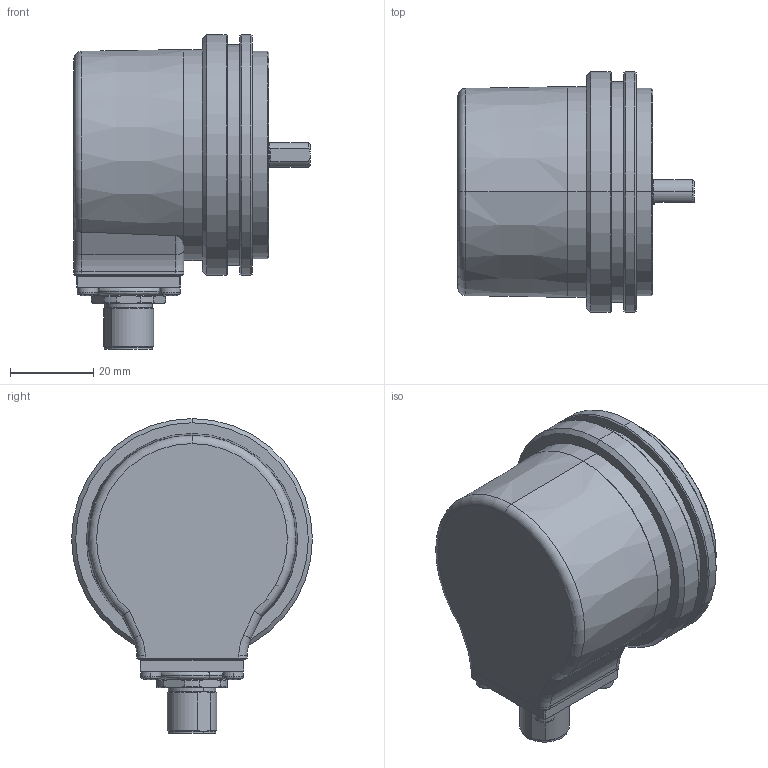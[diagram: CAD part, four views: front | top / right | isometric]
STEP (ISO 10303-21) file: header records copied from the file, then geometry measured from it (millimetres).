
FILE_DESCRIPTION (( 'STEP AP203' ), '1' );
FILE_NAME ('8.5000.A17R.XXXX.STEP', '2017-04-05T06:52:26', ( '' ), ( '' ), 'SwSTEP 2.0', 'SolidWorks 2017', '' );
FILE_SCHEMA (( 'CONFIG_CONTROL_DESIGN' ));
Length unit declared in the file: millimetre
Products named in the file (1): 8.5000.A17R.XXXX
Bounding box: 57 x 58 x 75.8 mm (x, y, z)
Surface area: 36825.5 mm2 (no closed solid volume)
Topology: 0 solids, 16 shells, 629 faces, 1485 edges, 882 vertices
Faces by surface type: plane 208, cylinder 182, cone 118, bspline 62, torus 47, sphere 12
Entity records: 20321 total; most frequent: CARTESIAN_POINT 6084, DIRECTION 3104, ORIENTED_EDGE 2842, EDGE_CURVE 1429, AXIS2_PLACEMENT_3D 1278, VERTEX_POINT 882, EDGE_LOOP 725, CIRCLE 710
